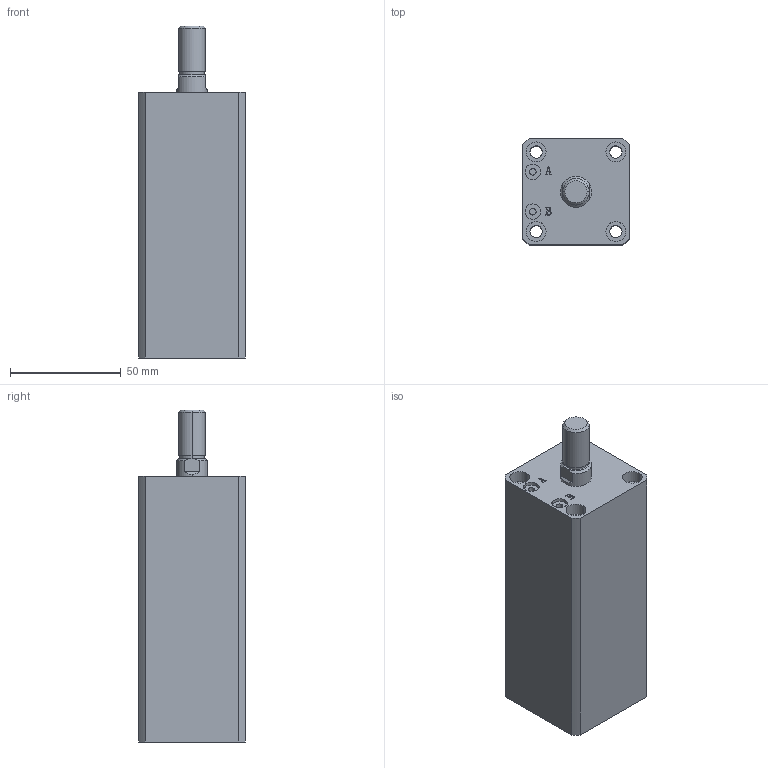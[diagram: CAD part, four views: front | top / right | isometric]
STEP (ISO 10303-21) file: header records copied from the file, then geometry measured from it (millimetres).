
FILE_DESCRIPTION (( 'STEP AP203' ), '1' );
FILE_NAME ('HTB-SDMA25-75W.STEP', '2019-10-07T11:12:18', ( '微软用户' ), ( '微软中国' ), 'SwSTEP 2.0', 'SolidWorks 2012', '' );
FILE_SCHEMA (( 'CONFIG_CONTROL_DESIGN' ));
Length unit declared in the file: millimetre
Products named in the file (3): HTB-SDMA25-75W; HTB-SDMA25-75W活塞杆; HTB-SDMA25-75掛极
Assembly tree (2 placements, depth 2):
  HTB-SDMA25-75W
    HTB-SDMA25-75掛极
    HTB-SDMA25-75W活塞杆
Bounding box: 48 x 48 x 150 mm (x, y, z)
Volume: 239132.9 mm3; surface area: 52124.4 mm2
Topology: 2 solids, 2 shells, 141 faces, 335 edges, 220 vertices
Faces by surface type: plane 67, cylinder 48, bspline 16, torus 6, cone 4
Entity records: 5178 total; most frequent: CARTESIAN_POINT 1609, ORIENTED_EDGE 670, DIRECTION 667, EDGE_CURVE 335, AXIS2_PLACEMENT_3D 242, VERTEX_POINT 220, LINE 183, VECTOR 183
